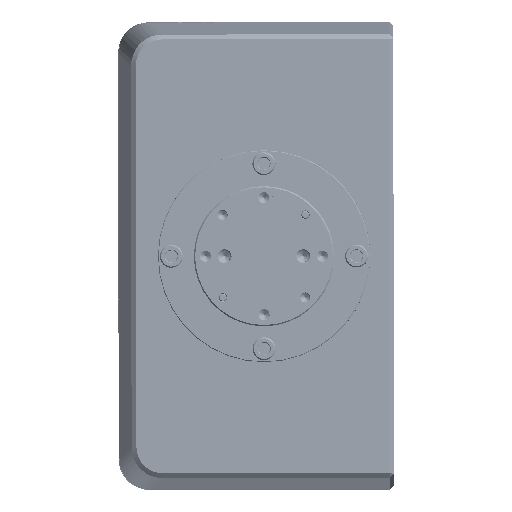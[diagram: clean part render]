
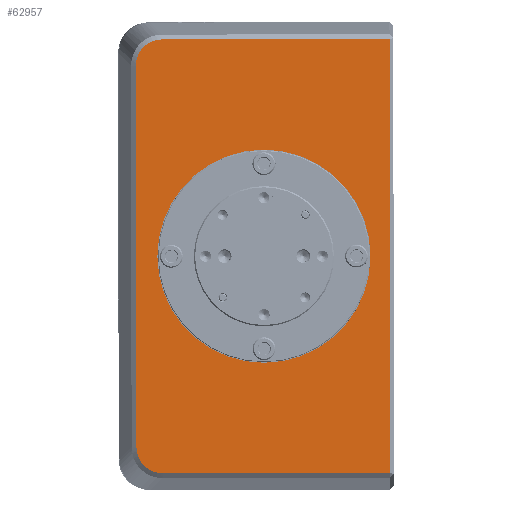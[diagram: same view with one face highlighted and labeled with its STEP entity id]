
A CAD part, left-side view. The second image highlights one B-rep face of the part: STEP entity #62957.
In plain terms, the highlighted planar face has unit normal (-1, -0.002, -0.001).
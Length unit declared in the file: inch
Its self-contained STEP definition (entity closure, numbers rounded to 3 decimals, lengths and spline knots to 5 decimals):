
#9055 = CARTESIAN_POINT ( 'NONE',  ( -0.09089, -8.39914, -3.05557 ) ) ;
#14925 = FACE_BOUND ( 'NONE', #67317, .T. ) ;
#16321 = CARTESIAN_POINT ( 'NONE',  ( -0.09347, -7.32689, -1.31688 ) ) ;
#20048 = AXIS2_PLACEMENT_3D ( 'NONE', #16321, #63960, #104644 ) ;
#20365 = VERTEX_POINT ( 'NONE', #81787 ) ;
#24105 = VECTOR ( 'NONE', #122215, 39.37008 ) ;
#34425 = DIRECTION ( 'NONE',  ( -1., -0.002, -0.001 ) ) ;
#38224 = CIRCLE ( 'NONE', #114316, 0.855 ) ;
#47221 = DIRECTION ( 'NONE',  ( -0.002, 1., -0.001 ) ) ;
#54707 = DIRECTION ( 'NONE',  ( -1., -0.002, -0.001 ) ) ;
#58108 = ORIENTED_EDGE ( 'NONE', *, *, #256521, .T. ) ;
#60814 = VERTEX_POINT ( 'NONE', #137811 ) ;
#62328 = EDGE_CURVE ( 'NONE', #20365, #77202, #248496, .T. ) ;
#62391 = CARTESIAN_POINT ( 'NONE',  ( -0.09578, -6.35983, 0.21303 ) ) ;
#62957 = ADVANCED_FACE ( 'NONE', ( #201562, #14925 ), #253405, .F. ) ;
#63960 = DIRECTION ( 'NONE',  ( 1., 0.002, 0.001 ) ) ;
#65180 = CARTESIAN_POINT ( 'NONE',  ( -0.09578, -6.40138, 0.34178 ) ) ;
#66894 = LINE ( 'NONE', #172269, #185443 ) ;
#67317 = EDGE_LOOP ( 'NONE', ( #110911, #266361 ) ) ;
#72716 = B_SPLINE_CURVE_WITH_KNOTS ( 'NONE', 3,
 ( #275607, #169145, #212474, #234960, #84833, #65180, #190112, #105868, #254635, #62391 ),
 .UNSPECIFIED., .F., .F.,
 ( 4, 2, 2, 2, 4 ),
 ( 0., 0.25, 0.5, 0.75, 1. ),
 .UNSPECIFIED. ) ;
#77202 = VERTEX_POINT ( 'NONE', #9055 ) ;
#78212 = CARTESIAN_POINT ( 'NONE',  ( -0.09397, -6.44424, -3.01638 ) ) ;
#81787 = CARTESIAN_POINT ( 'NONE',  ( -0.09375, -6.57299, -3.05793 ) ) ;
#82523 = AXIS2_PLACEMENT_3D ( 'NONE', #96176, #34425, #138283 ) ;
#84833 = CARTESIAN_POINT ( 'NONE',  ( -0.09574, -6.43984, 0.38033 ) ) ;
#87454 = CARTESIAN_POINT ( 'NONE',  ( -0.09271, -8.39463, 0.42459 ) ) ;
#96176 = CARTESIAN_POINT ( 'NONE',  ( -0.09338, -7.38689, -1.3168 ) ) ;
#97898 = VERTEX_POINT ( 'NONE', #198228 ) ;
#99546 = DIRECTION ( 'NONE',  ( -0.001, 0.001, 1. ) ) ;
#102015 = CARTESIAN_POINT ( 'NONE',  ( -0.09409, -6.39017, -2.95471 ) ) ;
#103348 = CARTESIAN_POINT ( 'NONE',  ( -0.09375, -6.57299, -3.05793 ) ) ;
#104644 = DIRECTION ( 'NONE',  ( 0.001, -0.001, -1. ) ) ;
#105868 = CARTESIAN_POINT ( 'NONE',  ( -0.0958, -6.36519, 0.26802 ) ) ;
#110911 = ORIENTED_EDGE ( 'NONE', *, *, #277394, .F. ) ;
#114316 = AXIS2_PLACEMENT_3D ( 'NONE', #138949, #54707, #99546 ) ;
#120488 = ORIENTED_EDGE ( 'NONE', *, *, #140370, .T. ) ;
#121699 = CARTESIAN_POINT ( 'NONE',  ( -0.09379, -6.54545, -3.05797 ) ) ;
#122215 = DIRECTION ( 'NONE',  ( 0.002, -1., 0.001 ) ) ;
#125872 = CARTESIAN_POINT ( 'NONE',  ( -0.09417, -6.36383, -2.87677 ) ) ;
#127034 = LINE ( 'NONE', #129787, #146229 ) ;
#129787 = CARTESIAN_POINT ( 'NONE',  ( -0.09498, -6.36181, -1.31813 ) ) ;
#131808 = CIRCLE ( 'NONE', #82523, 0.855 ) ;
#132882 = VERTEX_POINT ( 'NONE', #141260 ) ;
#134977 = ORIENTED_EDGE ( 'NONE', *, *, #258723, .T. ) ;
#137811 = CARTESIAN_POINT ( 'NONE',  ( -0.09578, -6.35983, 0.21303 ) ) ;
#138283 = DIRECTION ( 'NONE',  ( -0.001, 0.001, 1. ) ) ;
#138949 = CARTESIAN_POINT ( 'NONE',  ( -0.09338, -7.38689, -1.3168 ) ) ;
#140370 = EDGE_CURVE ( 'NONE', #132882, #20365, #220927, .T. ) ;
#141260 = CARTESIAN_POINT ( 'NONE',  ( -0.09419, -6.3638, -2.84929 ) ) ;
#141894 = EDGE_CURVE ( 'NONE', #206238, #263755, #66894, .T. ) ;
#146229 = VECTOR ( 'NONE', #233610, 39.37008 ) ;
#151481 = ORIENTED_EDGE ( 'NONE', *, *, #141894, .T. ) ;
#152816 = VECTOR ( 'NONE', #240976, 39.37008 ) ;
#153524 = EDGE_LOOP ( 'NONE', ( #120488, #252828, #58108, #151481, #134977, #272675 ) ) ;
#156853 = CARTESIAN_POINT ( 'NONE',  ( -0.0918, -8.39689, -1.31549 ) ) ;
#163935 = CARTESIAN_POINT ( 'NONE',  ( -0.09393, -6.4675, -3.03184 ) ) ;
#164435 = CARTESIAN_POINT ( 'NONE',  ( -0.09257, -7.32915, -3.05695 ) ) ;
#169145 = CARTESIAN_POINT ( 'NONE',  ( -0.0956, -6.54099, 0.42218 ) ) ;
#169444 = CARTESIAN_POINT ( 'NONE',  ( -0.09405, -6.40569, -2.97793 ) ) ;
#172269 = CARTESIAN_POINT ( 'NONE',  ( -0.09438, -7.32463, 0.4232 ) ) ;
#175629 = VERTEX_POINT ( 'NONE', #223000 ) ;
#185443 = VECTOR ( 'NONE', #47221, 39.37008 ) ;
#186294 = CARTESIAN_POINT ( 'NONE',  ( -0.09415, -6.36931, -2.90427 ) ) ;
#190112 = CARTESIAN_POINT ( 'NONE',  ( -0.09579, -6.38593, 0.31852 ) ) ;
#198228 = CARTESIAN_POINT ( 'NONE',  ( -0.09293, -7.388, -2.1718 ) ) ;
#201562 = FACE_OUTER_BOUND ( 'NONE', #153524, .T. ) ;
#203092 = CARTESIAN_POINT ( 'NONE',  ( -0.09556, -6.56848, 0.42222 ) ) ;
#206238 = VERTEX_POINT ( 'NONE', #87454 ) ;
#212474 = CARTESIAN_POINT ( 'NONE',  ( -0.09564, -6.5135, 0.41671 ) ) ;
#220927 = B_SPLINE_CURVE_WITH_KNOTS ( 'NONE', 3,
 ( #270436, #125872, #186294, #102015, #169444, #78212, #163935, #273124, #121699, #103348 ),
 .UNSPECIFIED., .F., .F.,
 ( 4, 2, 2, 2, 4 ),
 ( 0., 0.25, 0.5, 0.75, 1. ),
 .UNSPECIFIED. ) ;
#223000 = CARTESIAN_POINT ( 'NONE',  ( -0.09382, -7.38578, -0.4618 ) ) ;
#233610 = DIRECTION ( 'NONE',  ( 0.001, -0.001, -1. ) ) ;
#234960 = CARTESIAN_POINT ( 'NONE',  ( -0.09571, -6.46305, 0.39585 ) ) ;
#236555 = EDGE_CURVE ( 'NONE', #60814, #132882, #127034, .T. ) ;
#240976 = DIRECTION ( 'NONE',  ( -0.001, 0.001, 1. ) ) ;
#248496 = LINE ( 'NONE', #164435, #24105 ) ;
#252828 = ORIENTED_EDGE ( 'NONE', *, *, #62328, .T. ) ;
#253405 = PLANE ( 'NONE',  #20048 ) ;
#254635 = CARTESIAN_POINT ( 'NONE',  ( -0.09579, -6.35979, 0.24057 ) ) ;
#256521 = EDGE_CURVE ( 'NONE', #77202, #206238, #261996, .T. ) ;
#258723 = EDGE_CURVE ( 'NONE', #263755, #60814, #72716, .T. ) ;
#261996 = LINE ( 'NONE', #156853, #152816 ) ;
#263755 = VERTEX_POINT ( 'NONE', #203092 ) ;
#266361 = ORIENTED_EDGE ( 'NONE', *, *, #276626, .F. ) ;
#270436 = CARTESIAN_POINT ( 'NONE',  ( -0.09419, -6.3638, -2.84929 ) ) ;
#272675 = ORIENTED_EDGE ( 'NONE', *, *, #236555, .T. ) ;
#273124 = CARTESIAN_POINT ( 'NONE',  ( -0.09384, -6.51799, -3.05258 ) ) ;
#275607 = CARTESIAN_POINT ( 'NONE',  ( -0.09556, -6.56848, 0.42222 ) ) ;
#276626 = EDGE_CURVE ( 'NONE', #97898, #175629, #131808, .T. ) ;
#277394 = EDGE_CURVE ( 'NONE', #175629, #97898, #38224, .T. ) ;
